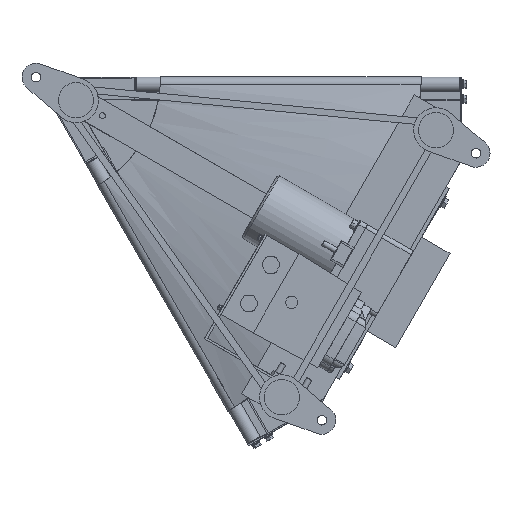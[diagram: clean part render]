
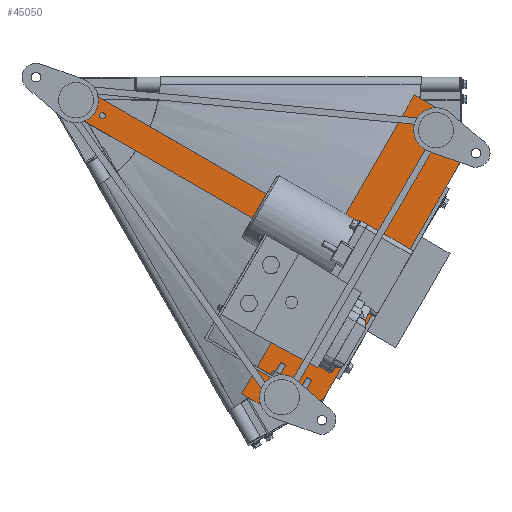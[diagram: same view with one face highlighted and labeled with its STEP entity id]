
A CAD part, front view. The second image highlights one B-rep face of the part: STEP entity #45050.
In plain terms, the highlighted planar face has unit normal (0, -1, 0).
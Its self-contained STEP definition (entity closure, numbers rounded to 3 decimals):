
#386 = VERTEX_POINT ( 'NONE', #13241 ) ;
#1224 = EDGE_CURVE ( 'NONE', #40246, #17657, #25409, .T. ) ;
#4142 = ORIENTED_EDGE ( 'NONE', *, *, #42860, .F. ) ;
#4552 = CARTESIAN_POINT ( 'NONE',  ( 577.365, -167.5, -117.701 ) ) ;
#4864 = ORIENTED_EDGE ( 'NONE', *, *, #1224, .F. ) ;
#5200 = VERTEX_POINT ( 'NONE', #30006 ) ;
#5628 = CARTESIAN_POINT ( 'NONE',  ( 34.549, -167.5, -41.886 ) ) ;
#5728 = VERTEX_POINT ( 'NONE', #48545 ) ;
#5735 = EDGE_CURVE ( 'NONE', #47814, #37215, #21040, .T. ) ;
#5847 = VERTEX_POINT ( 'NONE', #17534 ) ;
#6067 = DIRECTION ( 'NONE',  ( -0.139, 0., -0.99 ) ) ;
#7081 = AXIS2_PLACEMENT_3D ( 'NONE', #17441, #17261, #6067 ) ;
#7855 = VECTOR ( 'NONE', #45815, 1000. ) ;
#8606 = CARTESIAN_POINT ( 'NONE',  ( 34.549, -167.5, -41.886 ) ) ;
#12373 = EDGE_CURVE ( 'NONE', #17657, #5200, #27410, .T. ) ;
#12937 = DIRECTION ( 'NONE',  ( -0.866, 0., 0.5 ) ) ;
#13241 = CARTESIAN_POINT ( 'NONE',  ( 576.384, -167.5, -59.4 ) ) ;
#13302 = DIRECTION ( 'NONE',  ( 0.5, 0., 0.866 ) ) ;
#13385 = CARTESIAN_POINT ( 'NONE',  ( 341.384, -167.5, -466.432 ) ) ;
#13875 = LINE ( 'NONE', #27790, #44042 ) ;
#14586 = VECTOR ( 'NONE', #12937, 1000. ) ;
#14902 = FACE_OUTER_BOUND ( 'NONE', #45878, .T. ) ;
#15334 = VERTEX_POINT ( 'NONE', #43446 ) ;
#15935 = CARTESIAN_POINT ( 'NONE',  ( 515.762, -167.5, -24.4 ) ) ;
#17261 = DIRECTION ( 'NONE',  ( 0., -1., 0. ) ) ;
#17441 = CARTESIAN_POINT ( 'NONE',  ( 6.377, -167.5, -3.682 ) ) ;
#17534 = CARTESIAN_POINT ( 'NONE',  ( 280.762, -167.5, -431.432 ) ) ;
#17657 = VERTEX_POINT ( 'NONE', #28623 ) ;
#18457 = CARTESIAN_POINT ( 'NONE',  ( 280.762, -167.5, -431.432 ) ) ;
#19331 = CARTESIAN_POINT ( 'NONE',  ( 53.549, -167.5, -8.977 ) ) ;
#21040 = LINE ( 'NONE', #40553, #41174 ) ;
#21998 = PLANE ( 'NONE',  #7081 ) ;
#22248 = CARTESIAN_POINT ( 'NONE',  ( 392.365, -167.5, -438.131 ) ) ;
#22421 = CARTESIAN_POINT ( 'NONE',  ( 280.762, -167.5, -431.432 ) ) ;
#24300 = VECTOR ( 'NONE', #51156, 1000. ) ;
#24452 = ORIENTED_EDGE ( 'NONE', *, *, #12373, .F. ) ;
#24608 = VERTEX_POINT ( 'NONE', #30551 ) ;
#24772 = VECTOR ( 'NONE', #13302, 1000. ) ;
#25034 = CARTESIAN_POINT ( 'NONE',  ( 577.365, -167.5, -117.701 ) ) ;
#25409 = LINE ( 'NONE', #8606, #24772 ) ;
#26557 = DIRECTION ( 'NONE',  ( 0.5, 0., 0.866 ) ) ;
#27410 = LINE ( 'NONE', #19331, #24300 ) ;
#27751 = DIRECTION ( 'NONE',  ( 0.866, 0., -0.5 ) ) ;
#27790 = CARTESIAN_POINT ( 'NONE',  ( 280.762, -167.5, -431.432 ) ) ;
#27857 = CARTESIAN_POINT ( 'NONE',  ( 34.549, -167.5, -41.886 ) ) ;
#28106 = VECTOR ( 'NONE', #32569, 1000. ) ;
#28412 = VECTOR ( 'NONE', #27751, 1000. ) ;
#28456 = LINE ( 'NONE', #27857, #14586 ) ;
#28623 = CARTESIAN_POINT ( 'NONE',  ( 53.549, -167.5, -8.977 ) ) ;
#29196 = EDGE_CURVE ( 'NONE', #15334, #40246, #28456, .T. ) ;
#30006 = CARTESIAN_POINT ( 'NONE',  ( 406.887, -167.5, -212.977 ) ) ;
#30551 = CARTESIAN_POINT ( 'NONE',  ( 515.762, -167.5, -24.4 ) ) ;
#32557 = ORIENTED_EDGE ( 'NONE', *, *, #42318, .F. ) ;
#32569 = DIRECTION ( 'NONE',  ( 0.017, 0., -1. ) ) ;
#32869 = ORIENTED_EDGE ( 'NONE', *, *, #33130, .F. ) ;
#33130 = EDGE_CURVE ( 'NONE', #386, #47814, #43742, .T. ) ;
#33570 = ORIENTED_EDGE ( 'NONE', *, *, #34173, .F. ) ;
#34173 = EDGE_CURVE ( 'NONE', #37215, #5728, #49766, .T. ) ;
#34702 = ORIENTED_EDGE ( 'NONE', *, *, #48646, .F. ) ;
#36214 = ORIENTED_EDGE ( 'NONE', *, *, #5735, .F. ) ;
#37215 = VERTEX_POINT ( 'NONE', #22248 ) ;
#38716 = DIRECTION ( 'NONE',  ( -0.866, 0., 0.5 ) ) ;
#38759 = LINE ( 'NONE', #18457, #45640 ) ;
#39877 = EDGE_CURVE ( 'NONE', #24608, #386, #49042, .T. ) ;
#40246 = VERTEX_POINT ( 'NONE', #5628 ) ;
#40553 = CARTESIAN_POINT ( 'NONE',  ( 392.365, -167.5, -438.131 ) ) ;
#40735 = DIRECTION ( 'NONE',  ( -0.5, 0., -0.866 ) ) ;
#41174 = VECTOR ( 'NONE', #40735, 1000. ) ;
#42318 = EDGE_CURVE ( 'NONE', #5847, #15334, #38759, .T. ) ;
#42860 = EDGE_CURVE ( 'NONE', #5728, #5847, #45488, .T. ) ;
#43040 = ORIENTED_EDGE ( 'NONE', *, *, #29196, .F. ) ;
#43446 = CARTESIAN_POINT ( 'NONE',  ( 387.887, -167.5, -245.886 ) ) ;
#43742 = LINE ( 'NONE', #4552, #28106 ) ;
#44042 = VECTOR ( 'NONE', #51897, 1000. ) ;
#45050 = ADVANCED_FACE ( 'NONE', ( #14902 ), #21998, .T. ) ;
#45488 = LINE ( 'NONE', #22421, #49798 ) ;
#45640 = VECTOR ( 'NONE', #26557, 1000. ) ;
#45815 = DIRECTION ( 'NONE',  ( -0.874, 0., -0.485 ) ) ;
#45878 = EDGE_LOOP ( 'NONE', ( #43040, #32557, #4142, #33570, #36214, #32869, #48240, #34702, #24452, #4864 ) ) ;
#47814 = VERTEX_POINT ( 'NONE', #25034 ) ;
#48240 = ORIENTED_EDGE ( 'NONE', *, *, #39877, .F. ) ;
#48545 = CARTESIAN_POINT ( 'NONE',  ( 341.384, -167.5, -466.432 ) ) ;
#48646 = EDGE_CURVE ( 'NONE', #5200, #24608, #13875, .T. ) ;
#49042 = LINE ( 'NONE', #15935, #28412 ) ;
#49766 = LINE ( 'NONE', #13385, #7855 ) ;
#49798 = VECTOR ( 'NONE', #38716, 1000. ) ;
#51156 = DIRECTION ( 'NONE',  ( 0.866, 0., -0.5 ) ) ;
#51897 = DIRECTION ( 'NONE',  ( 0.5, 0., 0.866 ) ) ;
